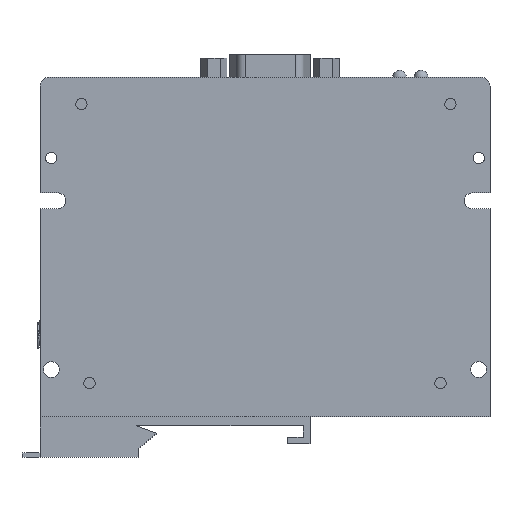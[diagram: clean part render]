
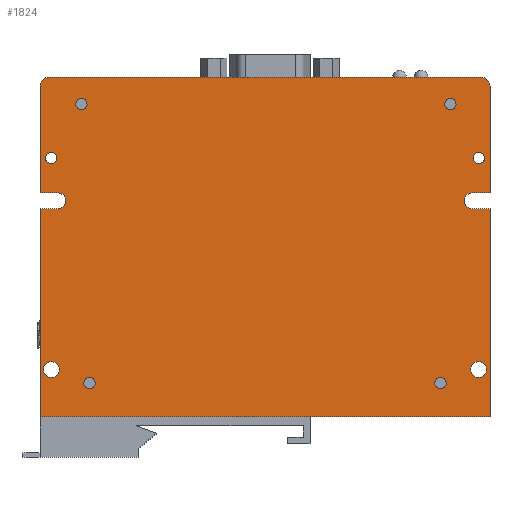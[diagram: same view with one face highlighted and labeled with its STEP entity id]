
A CAD part, front view. The second image highlights one B-rep face of the part: STEP entity #1824.
In plain terms, the highlighted planar face has unit normal (0, -1, 0).
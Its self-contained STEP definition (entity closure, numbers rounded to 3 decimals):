
#836=CIRCLE('',#11580,1.75);
#837=CIRCLE('',#11581,1.75);
#838=CIRCLE('',#11582,2.);
#839=CIRCLE('',#11583,2.);
#840=CIRCLE('',#11584,1.25);
#841=CIRCLE('',#11585,1.25);
#842=CIRCLE('',#11586,1.25);
#843=CIRCLE('',#11587,1.25);
#844=CIRCLE('',#11588,1.25);
#845=CIRCLE('',#11589,1.25);
#846=CIRCLE('',#11590,1.75);
#847=CIRCLE('',#11591,1.75);
#1824=ADVANCED_FACE('',(#2707,#2708,#2709,#2710,#2711,#2712,#2713,#2714,
#2715),#2346,.T.);
#2346=PLANE('',#11592);
#2707=FACE_BOUND('',#3352,.T.);
#2708=FACE_BOUND('',#3353,.T.);
#2709=FACE_BOUND('',#3354,.T.);
#2710=FACE_BOUND('',#3355,.T.);
#2711=FACE_BOUND('',#3356,.T.);
#2712=FACE_BOUND('',#3357,.T.);
#2713=FACE_BOUND('',#3358,.T.);
#2714=FACE_BOUND('',#3359,.T.);
#2715=FACE_BOUND('',#3360,.T.);
#3352=EDGE_LOOP('',(#5278,#5279,#5280,#5281,#5282,#5283,#5284,#5285,#5286,
#5287,#5288,#5289,#5290,#5291));
#3353=EDGE_LOOP('',(#5292));
#3354=EDGE_LOOP('',(#5293));
#3355=EDGE_LOOP('',(#5294));
#3356=EDGE_LOOP('',(#5295));
#3357=EDGE_LOOP('',(#5296));
#3358=EDGE_LOOP('',(#5297));
#3359=EDGE_LOOP('',(#5298));
#3360=EDGE_LOOP('',(#5299));
#5278=ORIENTED_EDGE('',*,*,#8276,.T.);
#5279=ORIENTED_EDGE('',*,*,#8277,.F.);
#5280=ORIENTED_EDGE('',*,*,#8278,.F.);
#5281=ORIENTED_EDGE('',*,*,#8279,.T.);
#5282=ORIENTED_EDGE('',*,*,#8280,.T.);
#5283=ORIENTED_EDGE('',*,*,#8281,.T.);
#5284=ORIENTED_EDGE('',*,*,#8267,.F.);
#5285=ORIENTED_EDGE('',*,*,#8275,.F.);
#5286=ORIENTED_EDGE('',*,*,#8282,.F.);
#5287=ORIENTED_EDGE('',*,*,#8283,.T.);
#5288=ORIENTED_EDGE('',*,*,#8284,.F.);
#5289=ORIENTED_EDGE('',*,*,#8285,.F.);
#5290=ORIENTED_EDGE('',*,*,#8286,.F.);
#5291=ORIENTED_EDGE('',*,*,#8287,.F.);
#5292=ORIENTED_EDGE('',*,*,#8288,.F.);
#5293=ORIENTED_EDGE('',*,*,#8289,.F.);
#5294=ORIENTED_EDGE('',*,*,#8290,.F.);
#5295=ORIENTED_EDGE('',*,*,#8291,.F.);
#5296=ORIENTED_EDGE('',*,*,#8292,.F.);
#5297=ORIENTED_EDGE('',*,*,#8293,.F.);
#5298=ORIENTED_EDGE('',*,*,#8294,.F.);
#5299=ORIENTED_EDGE('',*,*,#8295,.F.);
#7058=VERTEX_POINT('',#16666);
#7059=VERTEX_POINT('',#16667);
#7065=VERTEX_POINT('',#16681);
#7066=VERTEX_POINT('',#16685);
#7067=VERTEX_POINT('',#16686);
#7068=VERTEX_POINT('',#16688);
#7069=VERTEX_POINT('',#16690);
#7070=VERTEX_POINT('',#16692);
#7071=VERTEX_POINT('',#16694);
#7072=VERTEX_POINT('',#16697);
#7073=VERTEX_POINT('',#16699);
#7074=VERTEX_POINT('',#16701);
#7075=VERTEX_POINT('',#16703);
#7076=VERTEX_POINT('',#16705);
#7077=VERTEX_POINT('',#16708);
#7078=VERTEX_POINT('',#16710);
#7079=VERTEX_POINT('',#16712);
#7080=VERTEX_POINT('',#16714);
#7081=VERTEX_POINT('',#16716);
#7082=VERTEX_POINT('',#16718);
#7083=VERTEX_POINT('',#16720);
#7084=VERTEX_POINT('',#16722);
#8267=EDGE_CURVE('',#7058,#7059,#9474,.T.);
#8275=EDGE_CURVE('',#7065,#7058,#9482,.T.);
#8276=EDGE_CURVE('',#7066,#7067,#9483,.T.);
#8277=EDGE_CURVE('',#7068,#7067,#9484,.T.);
#8278=EDGE_CURVE('',#7069,#7068,#836,.T.);
#8279=EDGE_CURVE('',#7069,#7070,#9485,.T.);
#8280=EDGE_CURVE('',#7070,#7071,#9486,.T.);
#8281=EDGE_CURVE('',#7071,#7059,#9487,.T.);
#8282=EDGE_CURVE('',#7072,#7065,#837,.T.);
#8283=EDGE_CURVE('',#7072,#7073,#9488,.T.);
#8284=EDGE_CURVE('',#7074,#7073,#9489,.T.);
#8285=EDGE_CURVE('',#7075,#7074,#838,.T.);
#8286=EDGE_CURVE('',#7076,#7075,#9490,.T.);
#8287=EDGE_CURVE('',#7066,#7076,#839,.T.);
#8288=EDGE_CURVE('',#7077,#7077,#840,.T.);
#8289=EDGE_CURVE('',#7078,#7078,#841,.T.);
#8290=EDGE_CURVE('',#7079,#7079,#842,.T.);
#8291=EDGE_CURVE('',#7080,#7080,#843,.T.);
#8292=EDGE_CURVE('',#7081,#7081,#844,.T.);
#8293=EDGE_CURVE('',#7082,#7082,#845,.T.);
#8294=EDGE_CURVE('',#7083,#7083,#846,.T.);
#8295=EDGE_CURVE('',#7084,#7084,#847,.T.);
#9474=LINE('',#16665,#10526);
#9482=LINE('',#16682,#10534);
#9483=LINE('',#16684,#10535);
#9484=LINE('',#16687,#10536);
#9485=LINE('',#16691,#10537);
#9486=LINE('',#16693,#10538);
#9487=LINE('',#16695,#10539);
#9488=LINE('',#16698,#10540);
#9489=LINE('',#16700,#10541);
#9490=LINE('',#16704,#10542);
#10526=VECTOR('',#13515,1.);
#10534=VECTOR('',#13525,1.);
#10535=VECTOR('',#13528,1.);
#10536=VECTOR('',#13529,1.);
#10537=VECTOR('',#13532,1.);
#10538=VECTOR('',#13533,1.);
#10539=VECTOR('',#13534,1.);
#10540=VECTOR('',#13537,1.);
#10541=VECTOR('',#13538,1.);
#10542=VECTOR('',#13541,1.);
#11580=AXIS2_PLACEMENT_3D('',#16689,#13530,#13531);
#11581=AXIS2_PLACEMENT_3D('',#16696,#13535,#13536);
#11582=AXIS2_PLACEMENT_3D('',#16702,#13539,#13540);
#11583=AXIS2_PLACEMENT_3D('',#16706,#13542,#13543);
#11584=AXIS2_PLACEMENT_3D('',#16707,#13544,#13545);
#11585=AXIS2_PLACEMENT_3D('',#16709,#13546,#13547);
#11586=AXIS2_PLACEMENT_3D('',#16711,#13548,#13549);
#11587=AXIS2_PLACEMENT_3D('',#16713,#13550,#13551);
#11588=AXIS2_PLACEMENT_3D('',#16715,#13552,#13553);
#11589=AXIS2_PLACEMENT_3D('',#16717,#13554,#13555);
#11590=AXIS2_PLACEMENT_3D('',#16719,#13556,#13557);
#11591=AXIS2_PLACEMENT_3D('',#16721,#13558,#13559);
#11592=AXIS2_PLACEMENT_3D('',#16723,#13560,#13561);
#13515=DIRECTION('',(0.,0.,-1.));
#13525=DIRECTION('',(1.,0.,0.));
#13528=DIRECTION('',(0.,0.,-1.));
#13529=DIRECTION('',(-1.,0.,0.));
#13530=DIRECTION('',(0.,-1.,0.));
#13531=DIRECTION('',(0.,0.,-1.));
#13532=DIRECTION('',(-1.,0.,0.));
#13533=DIRECTION('',(0.,0.,-1.));
#13534=DIRECTION('',(1.,0.,0.));
#13535=DIRECTION('',(0.,-1.,0.));
#13536=DIRECTION('',(0.,0.,1.));
#13537=DIRECTION('',(1.,0.,0.));
#13538=DIRECTION('',(0.,0.,-1.));
#13539=DIRECTION('',(0.,1.,0.));
#13540=DIRECTION('',(0.,0.,1.));
#13541=DIRECTION('',(1.,0.,0.));
#13542=DIRECTION('',(0.,1.,0.));
#13543=DIRECTION('',(-1.,0.,0.));
#13544=DIRECTION('',(0.,-1.,0.));
#13545=DIRECTION('',(-1.,0.,0.));
#13546=DIRECTION('',(0.,-1.,0.));
#13547=DIRECTION('',(-1.,0.,0.));
#13548=DIRECTION('',(0.,-1.,0.));
#13549=DIRECTION('',(-1.,0.,0.));
#13550=DIRECTION('',(0.,-1.,0.));
#13551=DIRECTION('',(-1.,0.,0.));
#13552=DIRECTION('',(0.,-1.,0.));
#13553=DIRECTION('',(-1.,0.,0.));
#13554=DIRECTION('',(0.,-1.,0.));
#13555=DIRECTION('',(-1.,0.,0.));
#13556=DIRECTION('',(0.,-1.,0.));
#13557=DIRECTION('',(0.,0.,-1.));
#13558=DIRECTION('',(0.,-1.,0.));
#13559=DIRECTION('',(0.,0.,-1.));
#13560=DIRECTION('',(0.,-1.,0.));
#13561=DIRECTION('',(0.,0.,-1.));
#16665=CARTESIAN_POINT('',(190.,-9.7,7.));
#16666=CARTESIAN_POINT('',(190.,-9.7,7.));
#16667=CARTESIAN_POINT('',(190.,-9.7,-39.25));
#16681=CARTESIAN_POINT('',(186.,-9.7,7.));
#16682=CARTESIAN_POINT('',(186.,-9.7,7.));
#16684=CARTESIAN_POINT('',(90.,-9.7,34.25));
#16685=CARTESIAN_POINT('',(90.,-9.7,34.25));
#16686=CARTESIAN_POINT('',(90.,-9.7,10.5));
#16687=CARTESIAN_POINT('',(94.,-9.7,10.5));
#16688=CARTESIAN_POINT('',(94.,-9.7,10.5));
#16689=CARTESIAN_POINT('',(94.,-9.7,8.75));
#16690=CARTESIAN_POINT('',(94.,-9.7,7.));
#16691=CARTESIAN_POINT('',(94.,-9.7,7.));
#16692=CARTESIAN_POINT('',(90.,-9.7,7.));
#16693=CARTESIAN_POINT('',(90.,-9.7,7.));
#16694=CARTESIAN_POINT('',(90.,-9.7,-39.25));
#16695=CARTESIAN_POINT('',(90.,-9.7,-39.25));
#16696=CARTESIAN_POINT('',(186.,-9.7,8.75));
#16697=CARTESIAN_POINT('',(186.,-9.7,10.5));
#16698=CARTESIAN_POINT('',(186.,-9.7,10.5));
#16699=CARTESIAN_POINT('',(190.,-9.7,10.5));
#16700=CARTESIAN_POINT('',(190.,-9.7,34.25));
#16701=CARTESIAN_POINT('',(190.,-9.7,34.25));
#16702=CARTESIAN_POINT('',(188.,-9.7,34.25));
#16703=CARTESIAN_POINT('',(188.,-9.7,36.25));
#16704=CARTESIAN_POINT('',(92.,-9.7,36.25));
#16705=CARTESIAN_POINT('',(92.,-9.7,36.25));
#16706=CARTESIAN_POINT('',(92.,-9.7,34.25));
#16707=CARTESIAN_POINT('',(179.,-9.7,-31.75));
#16708=CARTESIAN_POINT('',(177.75,-9.7,-31.75));
#16709=CARTESIAN_POINT('',(99.2,-9.7,30.25));
#16710=CARTESIAN_POINT('',(97.95,-9.7,30.25));
#16711=CARTESIAN_POINT('',(181.2,-9.7,30.25));
#16712=CARTESIAN_POINT('',(179.95,-9.7,30.25));
#16713=CARTESIAN_POINT('',(92.5,-9.7,18.25));
#16714=CARTESIAN_POINT('',(91.25,-9.7,18.25));
#16715=CARTESIAN_POINT('',(187.5,-9.7,18.25));
#16716=CARTESIAN_POINT('',(186.25,-9.7,18.25));
#16717=CARTESIAN_POINT('',(101.,-9.7,-31.75));
#16718=CARTESIAN_POINT('',(99.75,-9.7,-31.75));
#16719=CARTESIAN_POINT('',(92.5,-9.7,-28.75));
#16720=CARTESIAN_POINT('',(92.5,-9.7,-30.5));
#16721=CARTESIAN_POINT('',(187.5,-9.7,-28.75));
#16722=CARTESIAN_POINT('',(187.5,-9.7,-30.5));
#16723=CARTESIAN_POINT('',(190.,-9.7,-39.25));
